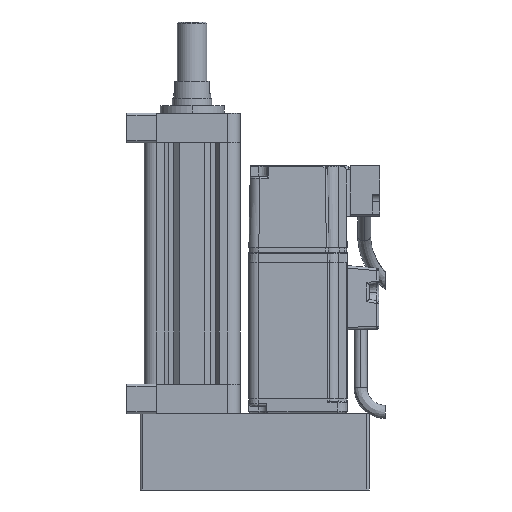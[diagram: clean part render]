
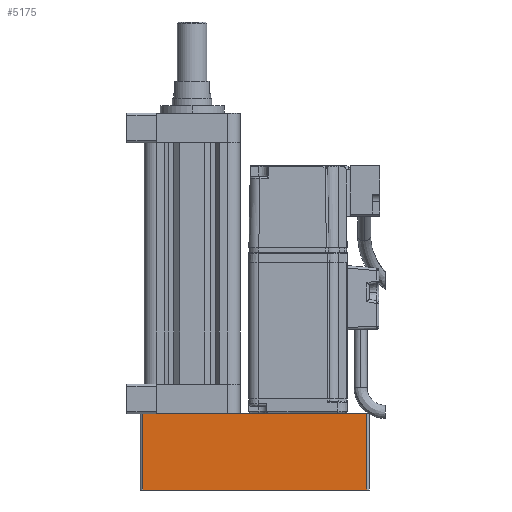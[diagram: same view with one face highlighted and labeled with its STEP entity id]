
A CAD part, left-side view. The second image highlights one B-rep face of the part: STEP entity #5175.
In plain terms, the highlighted planar face has unit normal (-1, 0, 0) as drawn and (0, 1, 0) by its records, which use the part's own axes.
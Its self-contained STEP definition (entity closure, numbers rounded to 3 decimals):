
#972 = LINE ( 'NONE', #10266, #17668 ) ;
#1428 = EDGE_CURVE ( 'NONE', #10521, #22369, #6426, .T. ) ;
#2350 = CARTESIAN_POINT ( 'NONE',  ( -46.5, 24., 0. ) ) ;
#3352 = PLANE ( 'NONE',  #20076 ) ;
#4062 = CARTESIAN_POINT ( 'NONE',  ( -45.5, 24., 31. ) ) ;
#5175 = ADVANCED_FACE ( 'NONE', ( #24325 ), #3352, .F. ) ;
#5415 = CARTESIAN_POINT ( 'NONE',  ( -46.5, 24., 31. ) ) ;
#6363 = DIRECTION ( 'NONE',  ( 0., 0., -1. ) ) ;
#6426 = LINE ( 'NONE', #22437, #15395 ) ;
#8554 = VECTOR ( 'NONE', #10270, 1000. ) ;
#8610 = LINE ( 'NONE', #2350, #12306 ) ;
#9386 = DIRECTION ( 'NONE',  ( 0., 0., -1. ) ) ;
#9781 = LINE ( 'NONE', #22128, #8554 ) ;
#10266 = CARTESIAN_POINT ( 'NONE',  ( 45.5, 24., 31. ) ) ;
#10270 = DIRECTION ( 'NONE',  ( -1., 0., 0. ) ) ;
#10521 = VERTEX_POINT ( 'NONE', #20458 ) ;
#11053 = EDGE_LOOP ( 'NONE', ( #11463, #20102, #24630, #14122 ) ) ;
#11362 = EDGE_CURVE ( 'NONE', #22305, #10521, #8610, .T. ) ;
#11463 = ORIENTED_EDGE ( 'NONE', *, *, #12280, .F. ) ;
#12280 = EDGE_CURVE ( 'NONE', #14606, #22369, #9781, .T. ) ;
#12306 = VECTOR ( 'NONE', #18172, 1000. ) ;
#13028 = DIRECTION ( 'NONE',  ( 0., -1., 0. ) ) ;
#14122 = ORIENTED_EDGE ( 'NONE', *, *, #1428, .T. ) ;
#14606 = VERTEX_POINT ( 'NONE', #15688 ) ;
#15395 = VECTOR ( 'NONE', #20499, 1000. ) ;
#15688 = CARTESIAN_POINT ( 'NONE',  ( 45.5, 24., 31. ) ) ;
#17668 = VECTOR ( 'NONE', #6363, 1000. ) ;
#17780 = EDGE_CURVE ( 'NONE', #14606, #22305, #972, .T. ) ;
#18172 = DIRECTION ( 'NONE',  ( -1., 0., 0. ) ) ;
#20076 = AXIS2_PLACEMENT_3D ( 'NONE', #5415, #13028, #9386 ) ;
#20102 = ORIENTED_EDGE ( 'NONE', *, *, #17780, .T. ) ;
#20458 = CARTESIAN_POINT ( 'NONE',  ( -45.5, 24., 0. ) ) ;
#20499 = DIRECTION ( 'NONE',  ( 0., 0., 1. ) ) ;
#22128 = CARTESIAN_POINT ( 'NONE',  ( -46.5, 24., 31. ) ) ;
#22305 = VERTEX_POINT ( 'NONE', #23046 ) ;
#22369 = VERTEX_POINT ( 'NONE', #4062 ) ;
#22437 = CARTESIAN_POINT ( 'NONE',  ( -45.5, 24., 31. ) ) ;
#23046 = CARTESIAN_POINT ( 'NONE',  ( 45.5, 24., 0. ) ) ;
#24325 = FACE_OUTER_BOUND ( 'NONE', #11053, .T. ) ;
#24630 = ORIENTED_EDGE ( 'NONE', *, *, #11362, .T. ) ;
